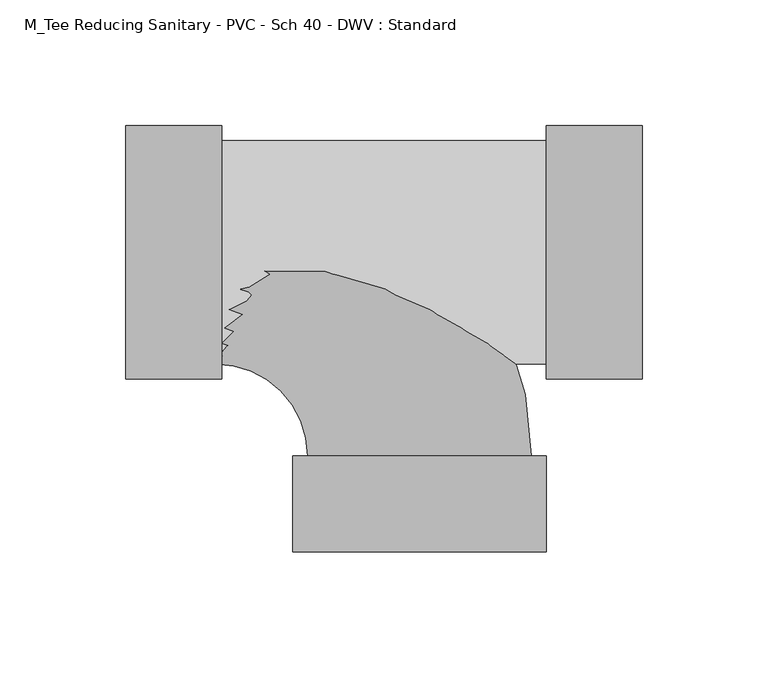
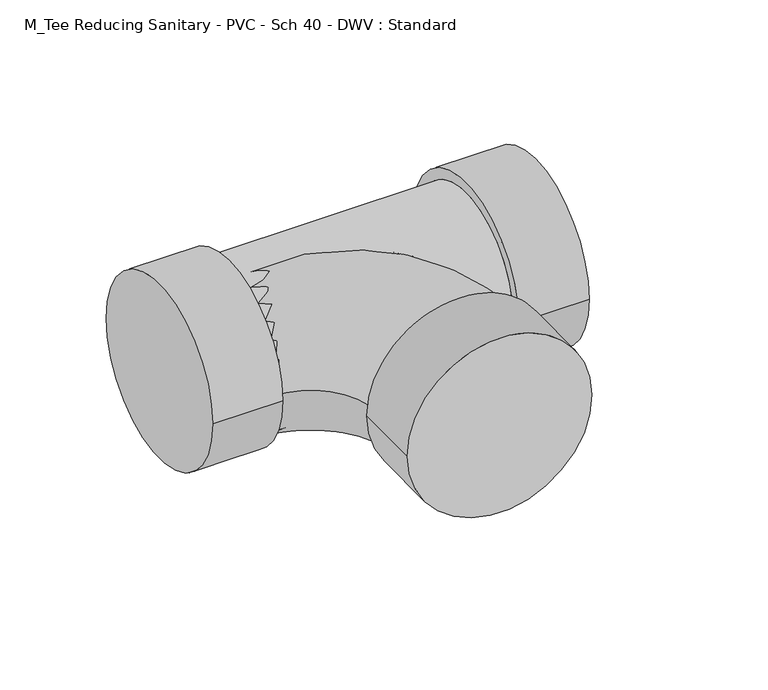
"""IFC4 building model written with IfcOpenShell, lengths in millimetres: pipe fitting geometry, M_Tee Reducing Sanitary - PVC - Sch 40 - DWV : Standard."""

import ifcopenshell
import ifcopenshell.guid

model = None  # the IFC model being written
_history = None  # IfcOwnerHistory: only IFC2X3 demands one
_inside = {}  # id of a spatial element -> (the spatial element, [elements in it])
_under = {}  # id of a project, library or spatial element -> (it, [spatial elements below it])
_declared = {}  # id of a project -> (the project, [libraries it declares])
_typed = {}  # id of a type object -> (the type object, [elements of that type])
_made_of = {}  # id of a material, layer set ... -> (it, [elements and type objects made of it])


def new_model(schema):
    """Start an empty IFC model of exactly this schema.

    Asked for "IFC4X3", IfcOpenShell would pick the latest addendum, in which some entities
    have other attributes; the version numbers below select the first issue.
    IFC2X3 requires an IfcOwnerHistory on every rooted entity: one is made here for all.
    """
    global model, _history
    if schema == "IFC4X3":
        model = ifcopenshell.file(schema_version=(4, 3, 0, 0))
    else:
        model = ifcopenshell.file(schema=schema)
    _inside.clear()
    _under.clear()
    _declared.clear()
    _typed.clear()
    _made_of.clear()
    _history = None
    if model.schema == "IFC2X3":
        org = make("IfcOrganization", Name="unknown")
        user = make(
            "IfcPersonAndOrganization",
            ThePerson=make("IfcPerson", FamilyName="unknown"),
            TheOrganization=org,
        )
        app = make(
            "IfcApplication",
            ApplicationDeveloper=org,
            Version="unknown",
            ApplicationFullName="unknown",
            ApplicationIdentifier="unknown",
        )
        _history = make(
            "IfcOwnerHistory",
            OwningUser=user,
            OwningApplication=app,
            ChangeAction="ADDED",
            CreationDate=0,
        )
    return model


def make(cls, **values):
    """One entity of the class cls with the attributes given. An attribute that is None is left unset."""
    return model.create_entity(
        cls, **{name: value for name, value in values.items() if value is not None}
    )


def rooted(cls, **values):
    """An entity with a GlobalId (a new one), such as an element, a storey or a relation."""
    return make(cls, GlobalId=ifcopenshell.guid.new(), OwnerHistory=_history, **values)


def si_unit(unit_type, name, prefix=None):
    """IfcSIUnit, for example si_unit("LENGTHUNIT", "METRE", prefix="MILLI")."""
    return make("IfcSIUnit", UnitType=unit_type, Prefix=prefix, Name=name)


def assignment(units):
    """IfcUnitAssignment: the units of a project."""
    return None if units is None else make("IfcUnitAssignment", Units=units)


def point(xyz):
    """IfcCartesianPoint."""
    return None if xyz is None else make("IfcCartesianPoint", Coordinates=xyz)


def direction(xyz):
    """IfcDirection."""
    return None if xyz is None else make("IfcDirection", DirectionRatios=xyz)


def frame(location, z_axis=None, x_axis=None):
    """IfcAxis2Placement3D, a coordinate frame: its origin and axes. An axis left out is left unset."""
    return make(
        "IfcAxis2Placement3D",
        Location=point(location),
        Axis=direction(z_axis),
        RefDirection=direction(x_axis),
    )


def origin():
    """The frame at (0, 0, 0) with its axes left unset."""
    return frame((0.0, 0.0, 0.0))


def place(relative_to, where):
    """IfcLocalPlacement: puts the frame where relative to a parent placement (None: the world)."""
    return make(
        "IfcLocalPlacement", PlacementRelTo=relative_to, RelativePlacement=where
    )


def context(
    kind, dimensions, precision=None, world=None, true_north=None, identifier=None
):
    """IfcGeometricRepresentationContext, for example the 3D "Model" context."""
    return make(
        "IfcGeometricRepresentationContext",
        ContextIdentifier=identifier,
        ContextType=kind,
        CoordinateSpaceDimension=dimensions,
        Precision=precision,
        WorldCoordinateSystem=world,
        TrueNorth=true_north,
    )


def project(units=None, contexts=None):
    """IfcProject with its units and contexts."""
    return rooted(
        "IfcProject",
        Name="project",
        RepresentationContexts=contexts,
        UnitsInContext=assignment(units),
    )


def spatial(cls, under=None, at=None, **own):
    """A site, building, storey or space (cls), placed at a placement, below another one or the project."""
    s = rooted(cls, ObjectPlacement=at, **own)
    if under is not None:
        _under.setdefault(under.id(), (under, []))[1].append(s)
    return s


def circle_curve(where, radius):
    """IfcCircle in the frame where."""
    return make("IfcCircle", Position=where, Radius=radius)


def ellipse_curve(where, semi_axis1, semi_axis2):
    """IfcEllipse in the frame where."""
    return make(
        "IfcEllipse", Position=where, SemiAxis1=semi_axis1, SemiAxis2=semi_axis2
    )


def trimmed(basis, trim1, trim2, sense, master):
    """IfcTrimmedCurve: the piece of a basis curve between two trims."""
    return make(
        "IfcTrimmedCurve",
        BasisCurve=basis,
        Trim1=trim1,
        Trim2=trim2,
        SenseAgreement=sense,
        MasterRepresentation=master,
    )


def shape(context_of_items, identifier, shape_type, items):
    """IfcShapeRepresentation: the items that make up one representation, for example the "Body"."""
    return make(
        "IfcShapeRepresentation",
        ContextOfItems=context_of_items,
        RepresentationIdentifier=identifier,
        RepresentationType=shape_type,
        Items=items,
    )


def source(mapping_origin, context_of_items, identifier, shape_type, items):
    """IfcRepresentationMap: a shape defined once, which mapped items show again and again."""
    return make(
        "IfcRepresentationMap",
        MappingOrigin=mapping_origin,
        MappedRepresentation=shape(context_of_items, identifier, shape_type, items),
    )


def transform(
    local_origin,
    x_axis=None,
    y_axis=None,
    z_axis=None,
    scale=None,
    scale2=None,
    scale3=None,
    uniform=True,
):
    """IfcCartesianTransformationOperator3D, or its non-uniform kind. x_axis, y_axis, z_axis: its Axis1, 2, 3."""
    if uniform:
        return make(
            "IfcCartesianTransformationOperator3D",
            Axis1=direction(x_axis),
            Axis2=direction(y_axis),
            LocalOrigin=point(local_origin),
            Scale=scale,
            Axis3=direction(z_axis),
        )
    return make(
        "IfcCartesianTransformationOperator3DnonUniform",
        Axis1=direction(x_axis),
        Axis2=direction(y_axis),
        LocalOrigin=point(local_origin),
        Scale=scale,
        Axis3=direction(z_axis),
        Scale2=scale2,
        Scale3=scale3,
    )


def mapped(mapping_source, mapping_target):
    """IfcMappedItem: shows the shape of a source again, moved by a transform."""
    return make(
        "IfcMappedItem", MappingSource=mapping_source, MappingTarget=mapping_target
    )


def made_of(thing, what):
    """Note that an element or type object is made of a material, layer set ...; save() writes the relation."""
    if what is not None:
        _made_of.setdefault(what.id(), (what, []))[1].append(thing)
    return thing


def element(
    cls,
    number,
    at=None,
    inside=None,
    cuts=None,
    type_object=None,
    material=None,
    context=None,
    identifier="Body",
    shape_type=None,
    held_by="IfcProductDefinitionShape",
    body=None,
    shapes=None,
    **own,
):
    """One element of the class cls, such as IfcWall. Its Tag is "e" and its number.

    at: its placement. inside: the storey or other place that contains it. cuts: it is an
    opening in that element (IfcRelVoidsElement). A single representation is given by context,
    identifier, shape_type and body (its items); several are given by shapes. held_by: the class
    of the entity that holds the representations. save() writes the other relations.
    """
    e = rooted(cls, Tag="e%d" % number, ObjectPlacement=at, **own)
    if body is not None:
        shapes = [shape(context, identifier, shape_type, body)]
    if shapes is not None:
        e.Representation = make(held_by, Representations=shapes)
    if inside is not None:
        _inside.setdefault(inside.id(), (inside, []))[1].append(e)
    if cuts is not None:
        rooted(
            "IfcRelVoidsElement", RelatingBuildingElement=cuts, RelatedOpeningElement=e
        )
    if type_object is not None:
        _typed.setdefault(type_object.id(), (type_object, []))[1].append(e)
    return made_of(e, material)


def aggregate(whole, parts):
    """IfcRelAggregates: a whole, such as a stair, and the parts it consists of."""
    return rooted("IfcRelAggregates", RelatingObject=whole, RelatedObjects=parts)


def save(model, path):
    """Write the relations noted so far, then the file.

    IfcRelAggregates (storeys below a building ...), IfcRelContainedInSpatialStructure (elements
    in a storey), IfcRelDefinesByType, IfcRelAssociatesMaterial and IfcRelDeclares: one each for
    every whole, place, type object, material and project.
    """
    for whole, parts in _under.values():
        aggregate(whole, parts)
    for where, things in _inside.values():
        rooted(
            "IfcRelContainedInSpatialStructure",
            RelatedElements=things,
            RelatingStructure=where,
        )
    for kind, things in _typed.values():
        rooted("IfcRelDefinesByType", RelatedObjects=things, RelatingType=kind)
    for what, things in _made_of.values():
        rooted("IfcRelAssociatesMaterial", RelatedObjects=things, RelatingMaterial=what)
    for by, libraries in _declared.values():
        rooted("IfcRelDeclares", RelatingContext=by, RelatedDefinitions=libraries)
    model.write(path)


def plane_surface(at):
    """IfcPlane: the flat surface through the origin of the frame at, square to its z axis."""
    return make("IfcPlane", Position=at)


def cylinder_surface(at, radius):
    """IfcCylindricalSurface: all points at the distance radius from the z axis of the frame at."""
    return make("IfcCylindricalSurface", Position=at, Radius=radius)


def revolved_surface(curve, axis_point, axis_direction):
    """IfcSurfaceOfRevolution: the curve turned about the line through axis_point along axis_direction."""
    return make(
        "IfcSurfaceOfRevolution",
        SweptCurve=make("IfcArbitraryOpenProfileDef", ProfileType="CURVE", Curve=curve),
        AxisPosition=make("IfcAxis1Placement", Location=point(axis_point), Axis=direction(axis_direction)),
    )


def advanced_brep(points, edges, surfaces, faces):
    """IfcAdvancedBrep: a solid bounded by faces that lie on surfaces and meet in shared edges.

    An edge is (start, end): straight between two places in points (the first is 0);
    or (start, end, curve); or (start, end, curve, False) where it runs against its curve.
    A face is (place in surfaces, loops), or (place, loops, False) where it looks against
    its surface's normal. A loop lists edges by number (the first is 1), with a minus sign
    where the edge is run from its end to its start. The first loop is the outer one.
    """
    corners = [point(p) for p in points]
    vertices = [make("IfcVertexPoint", VertexGeometry=c) for c in corners]
    made = []
    for start, end, *more in edges:
        made.append(
            make(
                "IfcEdgeCurve",
                EdgeStart=vertices[start],
                EdgeEnd=vertices[end],
                EdgeGeometry=more[0] if more else make("IfcPolyline", Points=[corners[start], corners[end]]),
                SameSense=more[1] if len(more) > 1 else True,
            )
        )
    hull = []
    for where, loops, *sense in faces:
        bounds = []
        for j, loop in enumerate(loops):
            ring = [make("IfcOrientedEdge", EdgeElement=made[abs(k) - 1], Orientation=k > 0) for k in loop]
            bounds.append(
                make(
                    "IfcFaceOuterBound" if j == 0 else "IfcFaceBound",
                    Bound=make("IfcEdgeLoop", EdgeList=ring),
                    Orientation=True,
                )
            )
        hull.append(make("IfcAdvancedFace", Bounds=bounds, FaceSurface=surfaces[where], SameSense=sense[0] if sense else True))
    return make("IfcAdvancedBrep", Outer=make("IfcClosedShell", CfsFaces=hull))


def m_tee_reducing_sanitary_pvc_sch_40_dwv_standard_263bb960(model_context):
    return source(origin(), model_context, "Body", "AdvancedBrep", [
        advanced_brep(
        [(50.2677861, -50.2666, 0.0), (50.2677861, 50.2666, 0.0), (50.2677861, -44.45, 0.0), (50.2677861, 44.45, 0.0), (88.3677861, -50.2666, 0.0), (88.3677861, 50.2666, 0.0), (-78.4787062, 44.45, 0.0), (-78.4787062, -44.45, 0.0), (-116.5787062, -50.2666, 0.0), (-116.5787062, 50.2666, 0.0), (-78.4787062, -50.2666, 0.0), (-78.4787062, 50.2666, 0.0)],
        [
            (0, 1, circle_curve(frame((50.2677861, 0.0, 0.0), z_axis=(-1.0, 0.0, 0.0), x_axis=(0.0, 1.0, 0.0)), 50.2666)),
            (1, 0, circle_curve(frame((50.2677861, 0.0, 0.0), z_axis=(-1.0, 0.0, 0.0), x_axis=(0.0, 1.0, 0.0)), 50.2666)),
            (2, 3, circle_curve(frame((50.2677861, 0.0, 0.0), z_axis=(1.0, 0.0, 0.0), x_axis=(0.0, 0.0, -1.0)), 44.45)),
            (3, 2, circle_curve(frame((50.2677861, 0.0, 0.0), z_axis=(1.0, 0.0, 0.0), x_axis=(0.0, 0.0, 1.0)), 44.45)),
            (4, 5, circle_curve(frame((88.3677861, 0.0, 0.0), z_axis=(1.0, 0.0, 0.0), x_axis=(0.0, 1.0, 0.0)), 50.2666)),
            (5, 4, circle_curve(frame((88.3677861, 0.0, 0.0), z_axis=(1.0, 0.0, 0.0), x_axis=(0.0, 1.0, 0.0)), 50.2666)),
            (0, 4),
            (5, 1),
            (6, 3),
            (2, 7),
            (7, 6, circle_curve(frame((-78.4787062, 0.0, 0.0), z_axis=(1.0, 0.0, 0.0), x_axis=(0.0, 0.0, -1.0)), 44.45)),
            (6, 7, circle_curve(frame((-78.4787062, 0.0, 0.0), z_axis=(1.0, 0.0, 0.0), x_axis=(0.0, 0.0, 1.0)), 44.45)),
            (8, 9, circle_curve(frame((-116.5787062, 0.0, 0.0), z_axis=(-1.0, 0.0, 0.0), x_axis=(0.0, 1.0, 0.0)), 50.2666)),
            (9, 8, circle_curve(frame((-116.5787062, 0.0, 0.0), z_axis=(-1.0, 0.0, 0.0), x_axis=(0.0, 1.0, 0.0)), 50.2666)),
            (10, 11, circle_curve(frame((-78.4787062, 0.0, 0.0), z_axis=(1.0, 0.0, 0.0), x_axis=(0.0, 1.0, 0.0)), 50.2666)),
            (11, 10, circle_curve(frame((-78.4787062, 0.0, 0.0), z_axis=(1.0, 0.0, 0.0), x_axis=(0.0, 1.0, 0.0)), 50.2666)),
            (8, 10),
            (11, 9),
        ],
        [
            plane_surface(frame((50.2677861, 0.0, 0.0), z_axis=(-1.0, 0.0, 0.0), x_axis=(0.0, 0.0, 1.0))),
            plane_surface(frame((88.3677861, 0.0, 0.0), z_axis=(1.0, 0.0, 0.0), x_axis=(0.0, 0.0, 1.0))),
            cylinder_surface(frame((50.2677861, 0.0, 0.0), z_axis=(-1.0, 0.0, 0.0), x_axis=(0.0, 1.0, 0.0)), 50.2666),
            cylinder_surface(frame((-78.4787062, 0.0, 0.0), z_axis=(1.0, 0.0, 0.0), x_axis=(0.0, 0.0, -1.0)), 44.45),
            cylinder_surface(frame((-78.4787062, 0.0, 0.0), z_axis=(1.0, 0.0, 0.0), x_axis=(0.0, 0.0, 1.0)), 44.45),
            plane_surface(frame((-116.5787062, 0.0, 0.0), z_axis=(-1.0, 0.0, 0.0), x_axis=(0.0, 0.0, 1.0))),
            plane_surface(frame((-78.4787062, 0.0, 0.0), z_axis=(1.0, 0.0, 0.0), x_axis=(0.0, 0.0, 1.0))),
            cylinder_surface(frame((-116.5787062, 0.0, 0.0), z_axis=(-1.0, 0.0, 0.0), x_axis=(0.0, 1.0, 0.0)), 50.2666),
        ],
        [
            (0, [[1, 2], [3, 4]]),
            (1, [[5, 6]]),
            (2, [[-1, 7, -6, 8]]),
            (2, [[-2, -8, -5, -7]]),
            (3, [[9, -3, 10, 11]]),
            (4, [[-9, 12, -10, -4]]),
            (5, [[13, 14]]),
            (6, [[15, 16], [-11, -12]]),
            (7, [[-13, 17, -16, 18]]),
            (7, [[-14, -18, -15, -17]]),
        ],
    ),
        advanced_brep(
        [(-50.2654139, -80.9483928, 0.0), (50.2677861, -80.9469197, 0.0), (44.4511861, -80.9470049, 0.0), (-44.4488139, -80.9483075, 0.0), (-50.2648556, -119.0483928, 0.0), (50.2683443, -119.0469197, 0.0), (-80.9476562, -44.45, 0.0), (-80.9476562, 44.45, 0.0)],
        [
            (0, 1, circle_curve(frame((0.0011861, -80.9476562, 0.0), z_axis=(-1.4652502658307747e-05, 0.9999999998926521, 0.0), x_axis=(0.9999999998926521, 1.4652502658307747e-05, 0.0)), 50.2666)),
            (1, 0, circle_curve(frame((0.0011861, -80.9476562, 0.0), z_axis=(-1.4652502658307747e-05, 0.9999999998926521, 0.0), x_axis=(0.9999999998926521, 1.4652502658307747e-05, 0.0)), 50.2666)),
            (2, 3, circle_curve(frame((0.0011861, -80.9476562, 0.0), z_axis=(1.4652502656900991e-05, -0.9999999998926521, 0.0), x_axis=(0.9999999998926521, 1.4652502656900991e-05, 0.0)), 44.45)),
            (3, 2, circle_curve(frame((0.0011861, -80.9476562, 0.0), z_axis=(1.4652502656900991e-05, -0.9999999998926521, 0.0), x_axis=(0.9999999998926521, 1.4652502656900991e-05, 0.0)), 44.45)),
            (4, 5, circle_curve(frame((0.0017443, -119.0476562, 0.0), z_axis=(1.4652502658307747e-05, -0.9999999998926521, 0.0), x_axis=(0.9999999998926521, 1.4652502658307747e-05, 0.0)), 50.2666)),
            (5, 4, circle_curve(frame((0.0017443, -119.0476562, 0.0), z_axis=(1.4652502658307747e-05, -0.9999999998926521, 0.0), x_axis=(0.9999999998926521, 1.4652502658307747e-05, 0.0)), 50.2666)),
            (0, 4),
            (5, 1),
            (6, 7, circle_curve(frame((-80.9476562, 0.0, 0.0), z_axis=(-1.0, 0.0, 0.0), x_axis=(0.0, 1.0, 0.0)), 44.45)),
            (7, 6, circle_curve(frame((-80.9476562, 0.0, 0.0), z_axis=(-1.0, 0.0, 0.0), x_axis=(0.0, 1.0, 0.0)), 44.45)),
            (6, 3, circle_curve(frame((-80.9476562, -80.9488423, 0.0), z_axis=(0.0, 0.0, -1.0), x_axis=(0.0, 1.0, 0.0)), 36.4988423)),
            (2, 7, circle_curve(frame((-80.9476562, -80.9488423, 0.0), z_axis=(0.0, 0.0, 1.0), x_axis=(0.0, 1.0, 0.0)), 125.3988423)),
        ],
        [
            plane_surface(frame((0.0011861, -80.9476562, 0.0), z_axis=(-1.4652502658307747e-05, 0.9999999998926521, 0.0), x_axis=(0.0, 0.0, 1.0))),
            plane_surface(frame((0.0017443, -119.0476562, 0.0), z_axis=(1.4652502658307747e-05, -0.9999999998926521, 0.0), x_axis=(0.0, 0.0, 1.0))),
            cylinder_surface(frame((0.0011861, -80.9476562, 0.0), z_axis=(-1.4652502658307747e-05, 0.9999999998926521, 0.0), x_axis=(0.9999999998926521, 1.4652502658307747e-05, 0.0)), 50.2666),
            plane_surface(frame((-80.9476562, 0.0, 0.0), z_axis=(-1.0, 0.0, 0.0), x_axis=(0.0, 0.0, 1.0))),
            revolved_surface(trimmed(ellipse_curve(frame((-80.9476562, 0.0, 0.0), z_axis=(-1.0, 0.0, 0.0), x_axis=(0.0, 1.0, 0.0)), 44.45, 44.45), [point((-80.9476562, -44.45, 0.0))], [point((-80.9476562, 44.45, 0.0))], True, "CARTESIAN"), (-80.9476562, -80.9488423, 0.0), (0.0, 0.0, -1.0)),
            revolved_surface(trimmed(ellipse_curve(frame((-80.9476562, 0.0, 0.0), z_axis=(-1.0, 0.0, 0.0), x_axis=(0.0, 1.0, 0.0)), 44.45, 44.45), [point((-80.9476562, 44.45, 0.0))], [point((-80.9476562, -44.45, 0.0))], True, "CARTESIAN"), (-80.9476562, -80.9488423, 0.0), (0.0, 0.0, -1.0)),
        ],
        [
            (0, [[1, 2], [3, 4]]),
            (1, [[5, 6]]),
            (2, [[-1, 7, -6, 8]]),
            (2, [[-2, -8, -5, -7]]),
            (3, [[9, 10]]),
            (4, [[-9, 11, -3, 12]]),
            (5, [[-10, -12, -4, -11]]),
        ],
    ),
    ])


if __name__ == "__main__":
    model = new_model("IFC4")
    model_context = context("Model", 3, world=origin())
    ifc_project = project(units=[si_unit("LENGTHUNIT", "METRE", prefix="MILLI")], contexts=[model_context])
    site = spatial("IfcSite", under=ifc_project)
    building = spatial("IfcBuilding", under=site)
    placement = place(None, origin())
    m_tee_reducing_sanitary_pvc_sch_40_dwv_standard_shape = m_tee_reducing_sanitary_pvc_sch_40_dwv_standard_263bb960(model_context)
    element("IfcPipeFitting", 1, ObjectType="M_Tee Reducing Sanitary - PVC - Sch 40 - DWV : Standard", at=placement, inside=building, context=model_context, shape_type="MappedRepresentation", body=[
        mapped(m_tee_reducing_sanitary_pvc_sch_40_dwv_standard_shape, transform((0.0, 0.0, 0.0), x_axis=(1.0, 0.0, 0.0), y_axis=(0.0, 1.0, 0.0), z_axis=(0.0, 0.0, 1.0))),
    ])
    save(model, "model.ifc")
